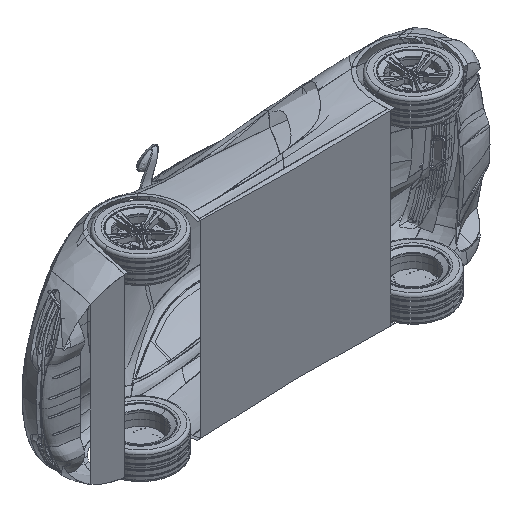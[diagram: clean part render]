
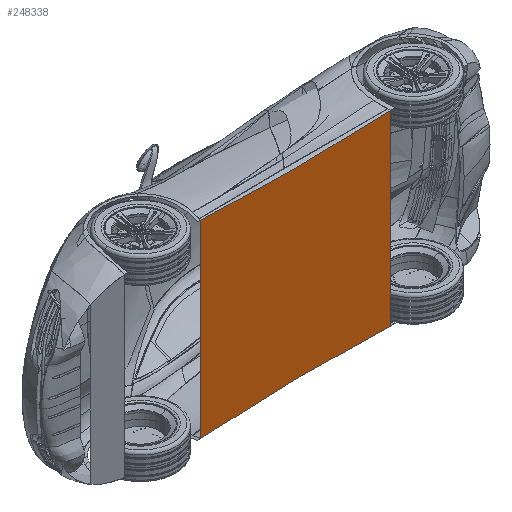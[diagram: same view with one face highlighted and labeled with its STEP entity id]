
A CAD part, isometric view. The second image highlights one B-rep face of the part: STEP entity #248338.
In plain terms, the highlighted free-form (B-spline) face has degree [3, 1] with [12, 2] control points.
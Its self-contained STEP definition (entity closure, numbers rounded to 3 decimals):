
#2060 = CARTESIAN_POINT ( 'NONE',  ( 1536.41, 140.883, 916.3 ) ) ;
#2885 = CARTESIAN_POINT ( 'NONE',  ( 2729.028, 149.691, -892.546 ) ) ;
#4510 = VECTOR ( 'NONE', #138504, 1000. ) ;
#11461 = ORIENTED_EDGE ( 'NONE', *, *, #103255, .T. ) ;
#13018 = CARTESIAN_POINT ( 'NONE',  ( 3116.431, 151.484, -902.34 ) ) ;
#13855 = CARTESIAN_POINT ( 'NONE',  ( 1717.545, 142.566, -907.025 ) ) ;
#15795 = CARTESIAN_POINT ( 'NONE',  ( 1536.41, 140.883, 916.3 ) ) ;
#18297 = CARTESIAN_POINT ( 'NONE',  ( 3310.613, 152.163, 910.847 ) ) ;
#21684 = CARTESIAN_POINT ( 'NONE',  ( 1717.545, 142.566, 907.025 ) ) ;
#22505 = CARTESIAN_POINT ( 'NONE',  ( 2922.453, 150.652, -896.361 ) ) ;
#33390 = CARTESIAN_POINT ( 'NONE',  ( 1445.883, 139.999, -921.633 ) ) ;
#34612 = CARTESIAN_POINT ( 'NONE',  ( 1445.883, 139.999, 0. ) ) ;
#35344 = CARTESIAN_POINT ( 'NONE',  ( 1445.883, 139.999, 921.633 ) ) ;
#40402 = CARTESIAN_POINT ( 'NONE',  ( 1445.883, 139.999, 921.633 ) ) ;
#41236 = CARTESIAN_POINT ( 'NONE',  ( 1989.728, 144.84, 897.297 ) ) ;
#42062 = CARTESIAN_POINT ( 'NONE',  ( 3116.431, 151.484, -902.34 ) ) ;
#43501 = VERTEX_POINT ( 'NONE', #109726 ) ;
#51203 = ORIENTED_EDGE ( 'NONE', *, *, #140219, .T. ) ;
#55122 = VECTOR ( 'NONE', #93498, 1000. ) ;
#56662 = CARTESIAN_POINT ( 'NONE',  ( 1717.545, 142.566, 907.025 ) ) ;
#60851 = CARTESIAN_POINT ( 'NONE',  ( 2262.625, 146.86, 891.777 ) ) ;
#61700 = CARTESIAN_POINT ( 'NONE',  ( 3245.898, 151.951, -907.771 ) ) ;
#62484 = LINE ( 'NONE', #155636, #4510 ) ;
#68077 = EDGE_CURVE ( 'NONE', #164424, #131187, #70420, .T. ) ;
#70420 = B_SPLINE_CURVE_WITH_KNOTS ( 'NONE', 3,
 ( #71833, #149445, #13018, #208275, #91439, #227845, #111069, #247484, #130655, #13855, #150282, #33390 ),
 .UNSPECIFIED., .F., .F.,
 ( 4, 1, 1, 1, 2, 1, 1, 1, 4 ),
 ( 0., 0.103, 0.206, 0.309, 0.412, 0.559, 0.706, 0.853, 1. ),
 .UNSPECIFIED. ) ;
#71833 = CARTESIAN_POINT ( 'NONE',  ( 3310.613, 152.163, -910.847 ) ) ;
#76263 = CARTESIAN_POINT ( 'NONE',  ( 2262.625, 146.86, 891.777 ) ) ;
#80483 = CARTESIAN_POINT ( 'NONE',  ( 2445.192, 148.038, 890.931 ) ) ;
#81322 = CARTESIAN_POINT ( 'NONE',  ( 3310.613, 152.163, -910.847 ) ) ;
#91439 = CARTESIAN_POINT ( 'NONE',  ( 2729.028, 149.691, -892.546 ) ) ;
#93498 = DIRECTION ( 'NONE',  ( 0., 0., 1. ) ) ;
#95894 = CARTESIAN_POINT ( 'NONE',  ( 2600.662, 148.967, 891.431 ) ) ;
#96367 = ORIENTED_EDGE ( 'NONE', *, *, #68077, .T. ) ;
#100103 = CARTESIAN_POINT ( 'NONE',  ( 2600.662, 148.967, 891.431 ) ) ;
#100819 = FACE_OUTER_BOUND ( 'NONE', #253162, .T. ) ;
#103255 = EDGE_CURVE ( 'NONE', #131187, #43501, #107024, .T. ) ;
#107024 = LINE ( 'NONE', #34612, #55122 ) ;
#109726 = CARTESIAN_POINT ( 'NONE',  ( 1445.883, 139.999, 921.633 ) ) ;
#111069 = CARTESIAN_POINT ( 'NONE',  ( 2445.192, 148.038, -890.931 ) ) ;
#115521 = CARTESIAN_POINT ( 'NONE',  ( 2922.453, 150.652, 896.361 ) ) ;
#118898 = CARTESIAN_POINT ( 'NONE',  ( 1445.883, 139.999, -921.633 ) ) ;
#119723 = CARTESIAN_POINT ( 'NONE',  ( 2729.028, 149.691, 892.546 ) ) ;
#130655 = CARTESIAN_POINT ( 'NONE',  ( 1989.728, 144.84, -897.297 ) ) ;
#131187 = VERTEX_POINT ( 'NONE', #192338 ) ;
#135110 = CARTESIAN_POINT ( 'NONE',  ( 3245.898, 151.951, 907.771 ) ) ;
#138476 = CARTESIAN_POINT ( 'NONE',  ( 1536.41, 140.883, -916.3 ) ) ;
#138504 = DIRECTION ( 'NONE',  ( 0., 0., -1. ) ) ;
#139330 = CARTESIAN_POINT ( 'NONE',  ( 2922.453, 150.652, 896.361 ) ) ;
#140219 = EDGE_CURVE ( 'NONE', #177370, #164424, #62484, .T. ) ;
#149445 = CARTESIAN_POINT ( 'NONE',  ( 3245.898, 151.951, -907.771 ) ) ;
#150282 = CARTESIAN_POINT ( 'NONE',  ( 1536.41, 140.883, -916.3 ) ) ;
#155636 = CARTESIAN_POINT ( 'NONE',  ( 3310.613, 152.163, 0. ) ) ;
#158144 = CARTESIAN_POINT ( 'NONE',  ( 1717.545, 142.566, -907.025 ) ) ;
#158971 = CARTESIAN_POINT ( 'NONE',  ( 3116.431, 151.484, 902.34 ) ) ;
#164424 = VERTEX_POINT ( 'NONE', #233848 ) ;
#177370 = VERTEX_POINT ( 'NONE', #243793 ) ;
#177735 = CARTESIAN_POINT ( 'NONE',  ( 1989.728, 144.84, -897.297 ) ) ;
#178578 = CARTESIAN_POINT ( 'NONE',  ( 3245.898, 151.951, 907.771 ) ) ;
#192338 = CARTESIAN_POINT ( 'NONE',  ( 1445.883, 139.999, -921.633 ) ) ;
#193153 = CARTESIAN_POINT ( 'NONE',  ( 1989.728, 144.84, 897.297 ) ) ;
#197372 = CARTESIAN_POINT ( 'NONE',  ( 2262.625, 146.86, -891.777 ) ) ;
#198116 = EDGE_CURVE ( 'NONE', #43501, #177370, #201102, .T. ) ;
#198190 = CARTESIAN_POINT ( 'NONE',  ( 3310.613, 152.163, 910.847 ) ) ;
#201102 = B_SPLINE_CURVE_WITH_KNOTS ( 'NONE', 3,
 ( #35344, #15795, #56662, #193153, #76263, #212729, #95894, #232304, #115521, #251942, #135110, #18297 ),
 .UNSPECIFIED., .F., .F.,
 ( 4, 1, 1, 1, 2, 1, 1, 1, 4 ),
 ( 0., 0.147, 0.294, 0.441, 0.588, 0.691, 0.794, 0.897, 1. ),
 .UNSPECIFIED. ) ;
#208275 = CARTESIAN_POINT ( 'NONE',  ( 2922.453, 150.652, -896.361 ) ) ;
#212729 = CARTESIAN_POINT ( 'NONE',  ( 2445.192, 148.038, 890.931 ) ) ;
#216937 = CARTESIAN_POINT ( 'NONE',  ( 2445.192, 148.038, -890.931 ) ) ;
#227845 = CARTESIAN_POINT ( 'NONE',  ( 2600.662, 148.967, -891.431 ) ) ;
#231878 = B_SPLINE_SURFACE_WITH_KNOTS ( 'NONE', 3, 1, ( 
 ( #40402, #118898 ),
 ( #2060, #138476 ),
 ( #21684, #158144 ),
 ( #41236, #177735 ),
 ( #60851, #197372 ),
 ( #80483, #216937 ),
 ( #100103, #236509 ),
 ( #119723, #2885 ),
 ( #139330, #22505 ),
 ( #158971, #42062 ),
 ( #178578, #61700 ),
 ( #198190, #81322 ) ),
 .UNSPECIFIED., .F., .F., .F.,
 ( 4, 1, 1, 1, 2, 1, 1, 1, 4 ),
 ( 2, 2 ),
 ( 0., 0.147, 0.294, 0.441, 0.588, 0.691, 0.794, 0.897, 1. ),
 ( 0., 1. ),
 .UNSPECIFIED. ) ;
#232304 = CARTESIAN_POINT ( 'NONE',  ( 2729.028, 149.691, 892.546 ) ) ;
#233848 = CARTESIAN_POINT ( 'NONE',  ( 3310.613, 152.163, -910.847 ) ) ;
#236509 = CARTESIAN_POINT ( 'NONE',  ( 2600.662, 148.967, -891.431 ) ) ;
#243793 = CARTESIAN_POINT ( 'NONE',  ( 3310.613, 152.163, 910.847 ) ) ;
#244009 = ORIENTED_EDGE ( 'NONE', *, *, #198116, .T. ) ;
#247484 = CARTESIAN_POINT ( 'NONE',  ( 2262.625, 146.86, -891.777 ) ) ;
#248338 = ADVANCED_FACE ( 'NONE', ( #100819 ), #231878, .T. ) ;
#251942 = CARTESIAN_POINT ( 'NONE',  ( 3116.431, 151.484, 902.34 ) ) ;
#253162 = EDGE_LOOP ( 'NONE', ( #244009, #51203, #96367, #11461 ) ) ;
